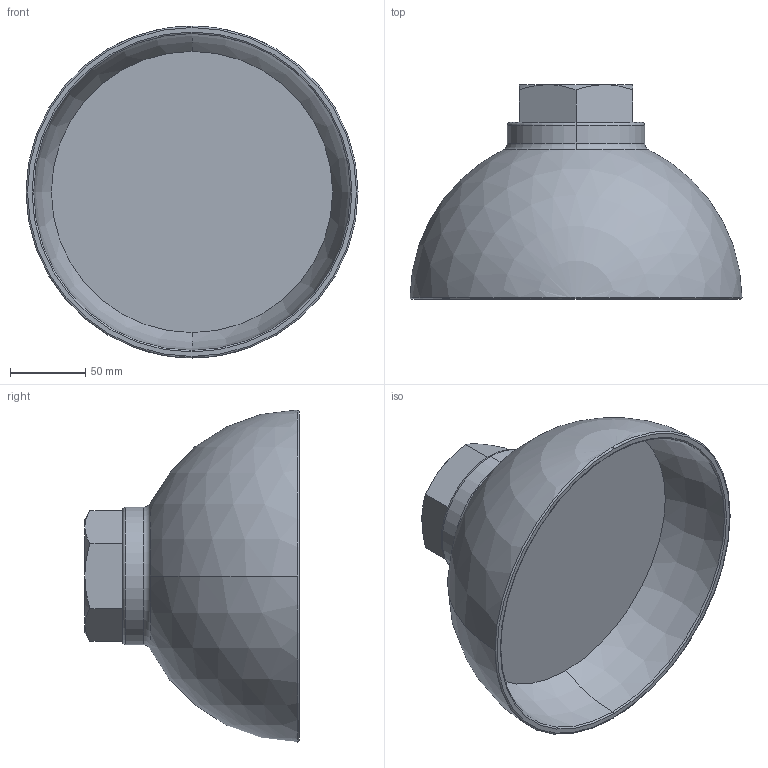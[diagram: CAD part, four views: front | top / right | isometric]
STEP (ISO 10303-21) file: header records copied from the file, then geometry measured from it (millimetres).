
FILE_DESCRIPTION (( 'STEP AP203' ), '1' );
FILE_NAME ('MS-2 50A.STEP', '2026-01-23T00:44:49', ( '' ), ( '' ), 'SwSTEP 2.0', 'SolidWorks 2024', '' );
FILE_SCHEMA (( 'CONFIG_CONTROL_DESIGN' ));
Length unit declared in the file: millimetre
Products named in the file (1): MS-2 50A
Bounding box: 219.99 x 142 x 219.99 mm (x, y, z)
Volume: 1461253.3 mm3; surface area: 151941.3 mm2
Topology: 1 solids, 1 shells, 36 faces, 78 edges, 47 vertices
Faces by surface type: cone 11, plane 11, torus 10, cylinder 2, sphere 2
Entity records: 1126 total; most frequent: CARTESIAN_POINT 246, DIRECTION 187, ORIENTED_EDGE 156, AXIS2_PLACEMENT_3D 84, EDGE_CURVE 78, VERTEX_POINT 47, CIRCLE 47, EDGE_LOOP 39
